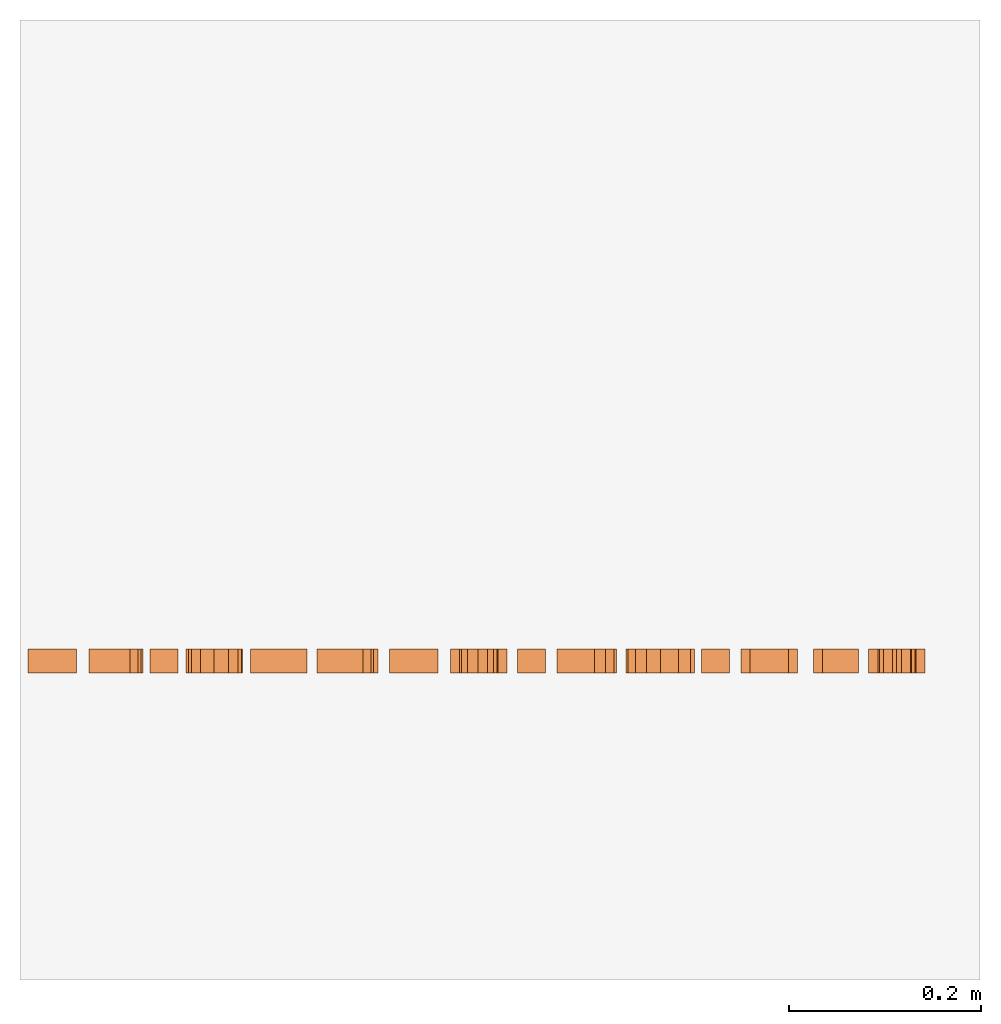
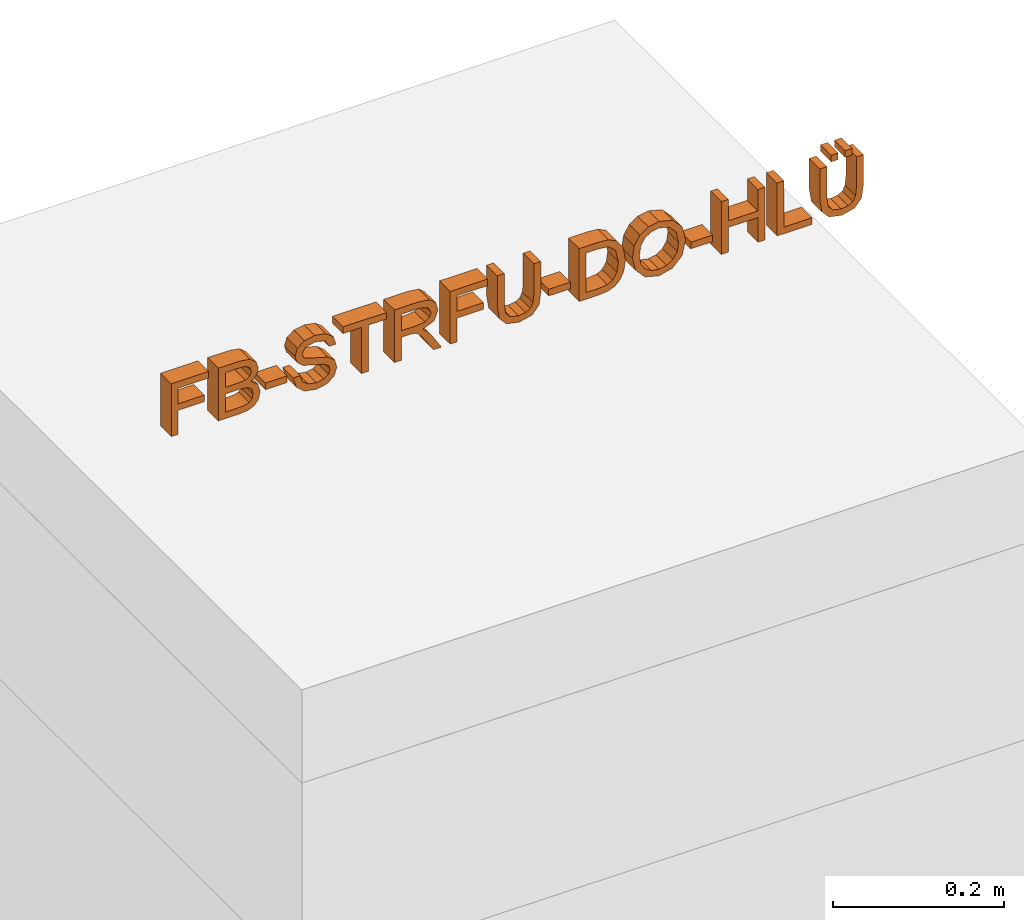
# Not in any storey, part 2 of 2: 1 proxy.
"""IFC4 model written with IfcOpenShell, lengths in metres."""

from ifc_helpers import new_model, entity, si_unit, converted_unit, derived_unit, direction, frame, origin, place, context, subcontext, project, spatial, indexed_curve, outline, extrude, type_object, element, save


model = new_model("IFC4")

# Units and contexts
model_context = context("Model", 3, precision=1e-05, world=origin(), true_north=direction((6.123031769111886e-17, 1.0)))
body_context = subcontext(model_context, "Body", "Model", "MODEL_VIEW")
ifc_project = project(units=[si_unit("LENGTHUNIT", "METRE"), si_unit("AREAUNIT", "SQUARE_METRE"), si_unit("VOLUMEUNIT", "CUBIC_METRE"), converted_unit("PLANEANGLEUNIT", "DEGREE", entity("IfcRatioMeasure", 0.017453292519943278), si_unit("PLANEANGLEUNIT", "RADIAN"), dimensions=[0, 0, 0, 0, 0, 0, 0]), si_unit("MASSUNIT", "GRAM", prefix="KILO"), derived_unit("MASSDENSITYUNIT", [(si_unit("MASSUNIT", "GRAM", prefix="KILO"), 1), (si_unit("LENGTHUNIT", "METRE"), -3)]), derived_unit("IONCONCENTRATIONUNIT", [(si_unit("MASSUNIT", "GRAM", prefix="KILO"), 1), (si_unit("LENGTHUNIT", "METRE"), -3)]), derived_unit("MOMENTOFINERTIAUNIT", [(si_unit("LENGTHUNIT", "METRE"), 4)]), si_unit("TIMEUNIT", "SECOND"), si_unit("FREQUENCYUNIT", "HERTZ"), si_unit("THERMODYNAMICTEMPERATUREUNIT", "DEGREE_CELSIUS"), derived_unit("THERMALTRANSMITTANCEUNIT", [(si_unit("MASSUNIT", "GRAM", prefix="KILO"), 1), (si_unit("THERMODYNAMICTEMPERATUREUNIT", "KELVIN"), -1), (si_unit("TIMEUNIT", "SECOND"), -3)]), derived_unit("THERMALCONDUCTANCEUNIT", [(si_unit("MASSUNIT", "GRAM", prefix="KILO"), 1), (si_unit("THERMODYNAMICTEMPERATUREUNIT", "KELVIN"), -1), (si_unit("TIMEUNIT", "SECOND"), -3), (si_unit("LENGTHUNIT", "METRE"), 1)]), derived_unit("VOLUMETRICFLOWRATEUNIT", [(si_unit("LENGTHUNIT", "METRE"), 3), (si_unit("TIMEUNIT", "SECOND"), -1)]), derived_unit("MASSFLOWRATEUNIT", [(si_unit("MASSUNIT", "GRAM", prefix="KILO"), 1), (si_unit("TIMEUNIT", "SECOND"), -1)]), derived_unit("ROTATIONALFREQUENCYUNIT", [(si_unit("TIMEUNIT", "SECOND"), -1)]), si_unit("ELECTRICCURRENTUNIT", "AMPERE"), si_unit("ELECTRICVOLTAGEUNIT", "VOLT"), si_unit("POWERUNIT", "WATT"), si_unit("FORCEUNIT", "NEWTON", prefix="KILO"), si_unit("ILLUMINANCEUNIT", "LUX"), si_unit("LUMINOUSFLUXUNIT", "LUMEN"), si_unit("LUMINOUSINTENSITYUNIT", "CANDELA"), derived_unit("USERDEFINED", [(si_unit("MASSUNIT", "GRAM", prefix="KILO"), -1), (si_unit("LENGTHUNIT", "METRE"), -2), (si_unit("TIMEUNIT", "SECOND"), 3), (si_unit("LUMINOUSFLUXUNIT", "LUMEN"), 1)]), derived_unit("USERDEFINED", [(si_unit("MASSUNIT", "GRAM", prefix="KILO"), 1), (si_unit("TIMEUNIT", "SECOND"), -3), (si_unit("LENGTHUNIT", "METRE"), 3), (si_unit("ELECTRICCURRENTUNIT", "AMPERE"), -2)]), derived_unit("SOUNDPOWERUNIT", [(si_unit("MASSUNIT", "GRAM", prefix="KILO"), 1), (si_unit("TIMEUNIT", "SECOND"), -3), (si_unit("LENGTHUNIT", "METRE"), 2)]), derived_unit("SOUNDPRESSUREUNIT", [(si_unit("MASSUNIT", "GRAM", prefix="KILO"), 1), (si_unit("LENGTHUNIT", "METRE"), -1), (si_unit("TIMEUNIT", "SECOND"), -2)]), derived_unit("LINEARVELOCITYUNIT", [(si_unit("LENGTHUNIT", "METRE"), 1), (si_unit("TIMEUNIT", "SECOND"), -1)]), si_unit("PRESSUREUNIT", "PASCAL"), derived_unit("USERDEFINED", [(si_unit("MASSUNIT", "GRAM", prefix="KILO"), 1), (si_unit("LENGTHUNIT", "METRE"), -2), (si_unit("TIMEUNIT", "SECOND"), -2)]), derived_unit("LINEARFORCEUNIT", [(si_unit("MASSUNIT", "GRAM", prefix="KILO"), 1), (si_unit("TIMEUNIT", "SECOND"), -2)]), derived_unit("PLANARFORCEUNIT", [(si_unit("MASSUNIT", "GRAM", prefix="KILO"), 1), (si_unit("LENGTHUNIT", "METRE"), -1), (si_unit("TIMEUNIT", "SECOND"), -2)]), derived_unit("SPECIFICHEATCAPACITYUNIT", [(si_unit("THERMODYNAMICTEMPERATUREUNIT", "KELVIN"), -1), (si_unit("LENGTHUNIT", "METRE"), 2), (si_unit("TIMEUNIT", "SECOND"), -2)]), derived_unit("HEATINGVALUEUNIT", [(si_unit("LENGTHUNIT", "METRE"), 2), (si_unit("TIMEUNIT", "SECOND"), -2)]), derived_unit("VAPORPERMEABILITYUNIT", [(si_unit("LENGTHUNIT", "METRE"), -1), (si_unit("TIMEUNIT", "SECOND"), 1)]), derived_unit("DYNAMICVISCOSITYUNIT", [(si_unit("MASSUNIT", "GRAM", prefix="KILO"), 1), (si_unit("TIMEUNIT", "SECOND"), -1), (si_unit("LENGTHUNIT", "METRE"), -1)]), derived_unit("THERMALEXPANSIONCOEFFICIENTUNIT", [(si_unit("THERMODYNAMICTEMPERATUREUNIT", "KELVIN"), -1)]), derived_unit("MODULUSOFELASTICITYUNIT", [(si_unit("MASSUNIT", "GRAM", prefix="KILO"), 1), (si_unit("LENGTHUNIT", "METRE"), -1), (si_unit("TIMEUNIT", "SECOND"), -2)]), derived_unit("ISOTHERMALMOISTURECAPACITYUNIT", [(si_unit("LENGTHUNIT", "METRE"), 3), (si_unit("MASSUNIT", "GRAM", prefix="KILO"), -1)]), derived_unit("MOISTUREDIFFUSIVITYUNIT", [(si_unit("TIMEUNIT", "SECOND"), -1), (si_unit("LENGTHUNIT", "METRE"), 2)])], contexts=[model_context])

# Site
site_placement = place(None, origin())
site = spatial("IfcSite", under=ifc_project, at=site_placement, Name="Default", CompositionType="ELEMENT")

# Proxy
building_element_proxy_type = type_object("IfcBuildingElementProxyType", Name="Modelltext:075mm Arial", PredefinedType="NOTDEFINED")
proxy_placement = place(site_placement, origin())
element("IfcBuildingElementProxy", 1, at=proxy_placement, inside=site, type_object=building_element_proxy_type, Name="Modelltext:075mm Arial", ObjectType="Modelltext:075mm Arial", PredefinedType="NOTDEFINED", context=body_context, shape_type="SweptSolid", body=[
    extrude(outline(indexed_curve([(-0.04379267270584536, -0.02283811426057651), (0.03154955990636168, -0.02283811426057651), (0.03154955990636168, 0.02778244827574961), (0.022131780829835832, 0.02778244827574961), (0.022131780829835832, -0.013420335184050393), (-0.00023544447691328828, -0.013420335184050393), (-0.00023544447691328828, 0.02189633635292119), (-0.009653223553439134, 0.02189633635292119), (-0.009653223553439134, -0.013420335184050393), (-0.04379267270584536, -0.013420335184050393), (-0.04379267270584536, -0.02283811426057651)], self_intersect=False)), frame((5.442664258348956, 42.834392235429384, 2.145105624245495), z_axis=(0.0, 1.0, 0.0), x_axis=(0.0, 0.0, 1.0)), (0.0, 0.0, 1.0), 0.025000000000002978),
    extrude(outline(indexed_curve([(-0.036518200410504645, -0.03960512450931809), (0.03882403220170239, -0.03960512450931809), (0.03882403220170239, -0.01085514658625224), (0.03660754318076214, 0.0032255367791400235), (0.029792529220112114, 0.011539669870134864), (0.02015402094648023, 0.014547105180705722), (0.011352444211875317, 0.012017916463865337), (0.004684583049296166, 0.004375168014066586), (-0.0023419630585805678, 0.013654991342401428), (-0.014059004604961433, 0.01690154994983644), (-0.024184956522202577, 0.014685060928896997), (-0.03139544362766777, 0.009194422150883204), (-0.0352214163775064, 0.00099985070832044), (-0.036518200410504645, -0.01107587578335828), (-0.036518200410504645, -0.03960512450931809)], self_intersect=False), holes=[indexed_curve([(-0.027100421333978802, -0.030187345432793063), (-0.027100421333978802, -0.010873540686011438), (-0.02673253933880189, -0.003883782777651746), (-0.024681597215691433, 0.002029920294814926), (-0.02049693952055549, 0.005947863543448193), (-0.014150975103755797, 0.007483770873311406), (-0.006830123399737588, 0.005681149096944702), (-0.002461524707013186, -0.00015897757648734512), (-0.0012015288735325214, -0.011793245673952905), (-0.0012015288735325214, -0.030187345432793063), (-0.027100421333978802, -0.030187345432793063)], self_intersect=False), indexed_curve([(0.008216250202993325, -0.030187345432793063), (0.008216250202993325, -0.012988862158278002), (0.009025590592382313, -0.002945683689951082), (0.01251127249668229, 0.003096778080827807), (0.01864570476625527, 0.005129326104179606), (0.02478933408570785, 0.003234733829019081), (0.02842216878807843, -0.0021915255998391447), (0.029406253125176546, -0.014294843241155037), (0.029406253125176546, -0.030187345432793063), (0.008216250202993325, -0.030187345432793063)], self_intersect=False)]), frame((5.523001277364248, 42.834392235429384, 2.1378311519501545), z_axis=(0.0, 1.0, 0.0), x_axis=(0.0, 0.0, 1.0)), (0.0, 0.0, 1.0), 0.025000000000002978),
    extrude(outline(indexed_curve([(-0.01250000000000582, -0.014715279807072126), (0.01249999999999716, -0.014715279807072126), (0.01249999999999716, 0.014715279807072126), (-0.01250000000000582, 0.014715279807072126), (-0.01250000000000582, -0.014715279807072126)], self_intersect=False)), frame((5.561681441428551, 42.84689223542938, 2.1236801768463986), z_axis=(0.0, 0.0, 1.0), x_axis=(0.0, 1.0, 0.0)), (0.0, 0.0, 1.0), 0.009417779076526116),
    extrude(outline(indexed_curve([(-0.030292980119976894, 0.01105485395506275), (-0.02087520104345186, 0.01105485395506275), (-0.017840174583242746, 0.020481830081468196), (-0.010427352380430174, 0.02644151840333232), (0.000866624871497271, 0.028713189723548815), (0.010707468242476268, 0.026993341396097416), (0.017062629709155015, 0.0222660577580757), (0.019150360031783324, 0.015947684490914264), (0.017586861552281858, 0.010070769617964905), (0.011185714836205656, 0.005794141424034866), (-0.0025270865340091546, 0.002198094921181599), (-0.01728835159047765, -0.002446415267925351), (-0.02529898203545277, -0.009454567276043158), (-0.027938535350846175, -0.018817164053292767), (-0.024673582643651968, -0.02947654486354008), (-0.015136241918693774, -0.03699973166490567), (-0.0011751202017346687, -0.03956570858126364), (0.013724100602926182, -0.03688017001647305), (0.023656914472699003, -0.02898910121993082), (0.027390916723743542, -0.01719848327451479), (0.017973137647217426, -0.01719848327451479), (0.012638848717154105, -0.026873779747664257), (-0.0008072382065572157, -0.030147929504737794), (-0.014290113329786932, -0.02691056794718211), (-0.01852075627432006, -0.019093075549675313), (-0.015522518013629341, -0.012563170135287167), (-0.0001450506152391, -0.007302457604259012), (0.016520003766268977, -0.0025751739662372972), (0.02563428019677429, 0.0050583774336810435), (0.028568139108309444, 0.0157085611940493), (0.025192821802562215, 0.026974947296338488), (0.015480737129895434, 0.03519710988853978), (0.001234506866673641, 0.03813096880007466), (-0.015586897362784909, 0.03496718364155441), (-0.026227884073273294, 0.025439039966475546), (-0.030292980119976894, 0.01105485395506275)], self_intersect=False)), frame((5.6149302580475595, 42.834392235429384, 2.138266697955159), z_axis=(0.0, 1.0, 0.0), x_axis=(1.0, 0.0, 0.0)), (0.0, 0.0, 1.0), 0.025000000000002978),
    extrude(outline(indexed_curve([(-0.05179778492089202, 0.004708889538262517), (-0.05179778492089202, -0.004708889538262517), (0.014126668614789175, -0.004708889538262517), (0.014126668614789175, -0.02943055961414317), (0.023544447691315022, -0.02943055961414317), (0.023544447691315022, 0.02943055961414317), (0.014126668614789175, 0.02943055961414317), (0.014126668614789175, 0.004708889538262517), (-0.05179778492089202, 0.004708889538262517)], self_intersect=False)), frame((5.681169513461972, 42.834392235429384, 2.1531107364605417), z_axis=(0.0, -1.0, 0.0), x_axis=(0.0, 0.0, 1.0)), (0.0, 0.0, -1.0), 0.025000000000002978),
    extrude(outline(indexed_curve([(-0.0337691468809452, -0.03536314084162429), (0.041573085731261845, -0.03536314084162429), (0.041573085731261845, -0.00289755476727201), (0.039540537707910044, 0.012176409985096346), (0.032348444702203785, 0.020416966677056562), (0.020953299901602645, 0.023497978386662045), (0.0073784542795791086, 0.01839361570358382), (0.0003703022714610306, 0.0026206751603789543), (-0.0036580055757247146, 0.007973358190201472), (-0.013351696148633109, 0.015606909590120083), (-0.0337691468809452, 0.02817007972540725), (-0.0337691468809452, 0.01722559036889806), (-0.01815255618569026, 0.007421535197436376), (-0.007815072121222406, 0.0003398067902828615), (-0.0029314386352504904, -0.004635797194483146), (-0.0011380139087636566, -0.009114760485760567), (-0.0008069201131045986, -0.014577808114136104), (-0.0008069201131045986, -0.025945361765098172), (-0.0337691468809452, -0.025945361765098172), (-0.0337691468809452, -0.03536314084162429)], self_intersect=False), holes=[indexed_curve([(0.008610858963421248, -0.025945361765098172), (0.008610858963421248, -0.004865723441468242), (0.009944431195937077, 0.0058856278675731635), (0.014211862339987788, 0.011992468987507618), (0.020603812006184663, 0.014080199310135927), (0.028899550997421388, 0.010097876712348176), (0.032155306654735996, -0.0024928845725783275), (0.032155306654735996, -0.025945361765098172), (0.008610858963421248, -0.025945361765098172)], self_intersect=False)]), frame((5.756558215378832, 42.834392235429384, 2.135082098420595), z_axis=(0.0, 1.0, 0.0), x_axis=(0.0, 0.0, 1.0)), (0.0, 0.0, 1.0), 0.025000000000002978),
    extrude(outline(indexed_curve([(-0.04379267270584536, -0.02283811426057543), (0.03154955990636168, -0.02283811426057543), (0.03154955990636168, 0.02778244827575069), (0.022131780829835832, 0.02778244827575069), (0.022131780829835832, -0.01342033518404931), (-0.00023544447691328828, -0.01342033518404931), (-0.00023544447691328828, 0.021896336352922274), (-0.009653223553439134, 0.021896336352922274), (-0.009653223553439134, -0.01342033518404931), (-0.04379267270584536, -0.01342033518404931), (-0.04379267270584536, -0.02283811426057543)], self_intersect=False)), frame((5.8193754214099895, 42.834392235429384, 2.145105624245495), z_axis=(0.0, 1.0, 0.0), x_axis=(0.0, 0.0, 1.0)), (0.0, 0.0, 1.0), 0.025000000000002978),
    extrude(outline(indexed_curve([(0.0193050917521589, -0.04688825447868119), (0.02872287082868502, -0.04688825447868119), (0.02872287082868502, -0.003422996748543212), (0.026166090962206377, 0.014594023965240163), (0.016950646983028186, 0.025446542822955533), (-0.0005237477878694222, 0.029631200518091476), (-0.01773142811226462, 0.0259891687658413), (-0.027277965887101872, 0.015440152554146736), (-0.030138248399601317, -0.003422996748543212), (-0.030138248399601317, -0.04688825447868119), (-0.0207204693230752, -0.04688825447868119), (-0.0207204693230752, -0.00375409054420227), (-0.018862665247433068, 0.010602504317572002), (-0.012479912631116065, 0.0177118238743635), (-0.0014066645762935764, 0.02021342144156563), (0.008172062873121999, 0.018976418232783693), (0.014541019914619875, 0.015265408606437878), (0.018114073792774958, 0.008036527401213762), (0.0193050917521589, -0.00375409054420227), (0.0193050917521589, -0.04688825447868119)], self_intersect=False)), frame((5.890245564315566, 42.834392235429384, 2.1297669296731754), z_axis=(0.0, 1.0, 0.0), x_axis=(1.0, 0.0, 0.0)), (0.0, 0.0, 1.0), 0.025000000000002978),
    extrude(outline(indexed_curve([(-0.01250000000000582, -0.014715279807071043), (0.01249999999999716, -0.014715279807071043), (0.01249999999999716, 0.014715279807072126), (-0.01250000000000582, 0.014715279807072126), (-0.01250000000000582, -0.014715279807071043)], self_intersect=False)), frame((5.9442787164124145, 42.84689223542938, 2.1236801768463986), z_axis=(0.0, 0.0, 1.0), x_axis=(0.0, 1.0, 0.0)), (0.0, 0.0, 1.0), 0.009417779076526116),
    extrude(outline(indexed_curve([(-0.03575046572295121, -0.03902844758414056), (0.039591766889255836, -0.03902844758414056), (0.039591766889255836, -0.013037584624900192), (0.0385065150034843, 0.0004085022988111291), (0.0331170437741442, 0.011481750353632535), (0.02024117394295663, 0.020402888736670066), (0.0023253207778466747, 0.023364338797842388), (-0.012877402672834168, 0.021359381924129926), (-0.023849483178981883, 0.01620903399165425), (-0.030682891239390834, 0.00932964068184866), (-0.03446287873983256, 0.00032572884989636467), (-0.03575046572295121, -0.011786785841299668), (-0.03575046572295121, -0.03902844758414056)], self_intersect=False), holes=[indexed_curve([(-0.02633268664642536, -0.02961066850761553), (-0.02633268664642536, -0.01294561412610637), (-0.024971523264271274, -0.0008239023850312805), (-0.021127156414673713, 0.006165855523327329), (-0.011773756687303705, 0.011895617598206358), (0.0024724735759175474, 0.013946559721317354), (0.020314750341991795, 0.009927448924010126), (0.02866567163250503, 0.0001509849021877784), (0.03017398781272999, -0.013203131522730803), (0.03017398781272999, -0.02961066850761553), (-0.02633268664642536, -0.02961066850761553)], self_intersect=False)]), frame((6.009794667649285, 42.834392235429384, 2.137063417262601), z_axis=(0.0, 1.0, 0.0), x_axis=(0.0, 0.0, 1.0)), (0.0, 0.0, 1.0), 0.025000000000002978),
    extrude(outline(indexed_curve([(-0.007932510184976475, -0.03322897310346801), (0.008916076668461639, -0.03322897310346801), (0.0225023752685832, -0.02765904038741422), (0.03206013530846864, -0.01746865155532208), (0.03682310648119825, -0.0036072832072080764), (0.0347053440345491, 0.015667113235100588), (0.022906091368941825, 0.030317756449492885), (0.0036236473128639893, 0.037650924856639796), (-0.017270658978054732, 0.03614002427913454), (-0.0327128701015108, 0.025259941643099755), (-0.040014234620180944, 0.007916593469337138), (-0.037772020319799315, -0.011581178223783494), (-0.025834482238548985, -0.02617825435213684), (-0.007932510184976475, -0.03322897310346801)], self_intersect=False), holes=[indexed_curve([(-0.006620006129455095, -0.02390264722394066), (-0.017993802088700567, -0.02028421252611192), (-0.026032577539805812, -0.013359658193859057), (-0.030387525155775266, -0.00411629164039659), (-0.030709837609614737, 0.00645857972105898), (-0.027244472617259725, 0.01661609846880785), (-0.020302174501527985, 0.024170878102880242), (-0.010313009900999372, 0.028336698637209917), (0.0022929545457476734, 0.028327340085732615), (0.017185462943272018, 0.022846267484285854), (0.02596819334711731, 0.012063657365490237), (0.027518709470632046, -0.002149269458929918), (0.024269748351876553, -0.01190458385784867), (0.01776833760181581, -0.01963509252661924), (0.007607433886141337, -0.024061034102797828), (-0.006620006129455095, -0.02390264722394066)], self_intersect=False)]), frame((6.076616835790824, 42.83439223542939, 2.140882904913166), z_axis=(0.0, 1.0, 0.0), x_axis=(0.14902108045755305, 0.0, 0.9888340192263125)), (0.0, 0.0, 1.0), 0.025000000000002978),
    extrude(outline(indexed_curve([(-0.01250000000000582, -0.014715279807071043), (0.01249999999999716, -0.014715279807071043), (0.01249999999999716, 0.014715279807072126), (-0.01250000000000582, 0.014715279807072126), (-0.01250000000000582, -0.014715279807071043)], self_intersect=False)), frame((6.136165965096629, 42.84689223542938, 2.1236801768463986), z_axis=(0.0, 0.0, 1.0), x_axis=(0.0, 1.0, 0.0)), (0.0, 0.0, 1.0), 0.009417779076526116),
    extrude(outline(indexed_curve([(-0.03845593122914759, -0.029430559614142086), (0.03688630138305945, -0.029430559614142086), (0.03688630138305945, -0.020012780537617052), (0.006278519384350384, -0.020012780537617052), (0.006278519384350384, 0.020012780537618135), (0.03688630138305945, 0.020012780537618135), (0.03688630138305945, 0.02943055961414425), (-0.03845593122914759, 0.02943055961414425), (-0.03845593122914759, 0.020012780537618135), (-0.0031392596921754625, 0.020012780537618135), (-0.0031392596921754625, -0.020012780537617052), (-0.03845593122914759, -0.020012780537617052), (-0.03845593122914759, -0.029430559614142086)], self_intersect=False)), frame((6.1920840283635, 42.834392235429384, 2.1397688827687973), z_axis=(0.0, 1.0, 0.0), x_axis=(0.0, 0.0, 1.0)), (0.0, 0.0, 1.0), 0.025000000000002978),
    extrude(outline(indexed_curve([(-0.028253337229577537, -0.01883555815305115), (0.0470888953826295, -0.01883555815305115), (0.0470888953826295, -0.009417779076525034), (-0.01883555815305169, -0.009417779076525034), (-0.01883555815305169, 0.02825333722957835), (-0.028253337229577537, 0.02825333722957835), (-0.028253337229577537, -0.01883555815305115)], self_intersect=False)), frame((6.256831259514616, 42.83439223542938, 2.1295662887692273), z_axis=(0.0, 1.0, 0.0), x_axis=(0.0, 0.0, 1.0)), (0.0, 0.0, 1.0), 0.025000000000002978),
    extrude(outline(indexed_curve([(-0.01250000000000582, -0.004708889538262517), (0.01249999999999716, -0.004708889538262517), (0.01249999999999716, 0.0047088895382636), (-0.01250000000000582, 0.0047088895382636), (-0.01250000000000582, -0.004708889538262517)], self_intersect=False)), frame((6.315692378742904, 42.84689223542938, 2.1813640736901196), z_axis=(0.0, 0.0, 1.0), x_axis=(0.0, 1.0, 0.0)), (0.0, 0.0, 1.0), 0.009417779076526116),
    extrude(outline(indexed_curve([(0.019305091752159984, -0.04688825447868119), (0.028722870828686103, -0.04688825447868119), (0.028722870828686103, -0.003422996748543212), (0.026166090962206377, 0.014594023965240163), (0.016950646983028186, 0.025446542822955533), (-0.0005237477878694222, 0.029631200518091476), (-0.01773142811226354, 0.0259891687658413), (-0.027277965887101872, 0.015440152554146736), (-0.030138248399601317, -0.003422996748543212), (-0.030138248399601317, -0.04688825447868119), (-0.0207204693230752, -0.04688825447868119), (-0.0207204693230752, -0.00375409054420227), (-0.018862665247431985, 0.010602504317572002), (-0.012479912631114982, 0.0177118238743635), (-0.0014066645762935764, 0.02021342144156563), (0.008172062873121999, 0.018976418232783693), (0.01454101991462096, 0.015265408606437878), (0.018114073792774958, 0.008036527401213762), (0.019305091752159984, -0.00375409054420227), (0.019305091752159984, -0.04688825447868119)], self_intersect=False)), frame((6.325817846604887, 42.834392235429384, 2.1297669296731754), z_axis=(0.0, 1.0, 0.0), x_axis=(1.0, 0.0, 0.0)), (0.0, 0.0, 1.0), 0.025000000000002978),
    extrude(outline(indexed_curve([(-0.01250000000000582, -0.004708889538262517), (0.01249999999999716, -0.004708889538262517), (0.01249999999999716, 0.0047088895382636), (-0.01250000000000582, 0.0047088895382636), (-0.01250000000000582, -0.004708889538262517)], self_intersect=False)), frame((6.334527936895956, 42.84689223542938, 2.1813640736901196), z_axis=(0.0, 0.0, 1.0), x_axis=(0.0, 1.0, 0.0)), (0.0, 0.0, 1.0), 0.009417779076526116),
])

save(model, "model.ifc")
